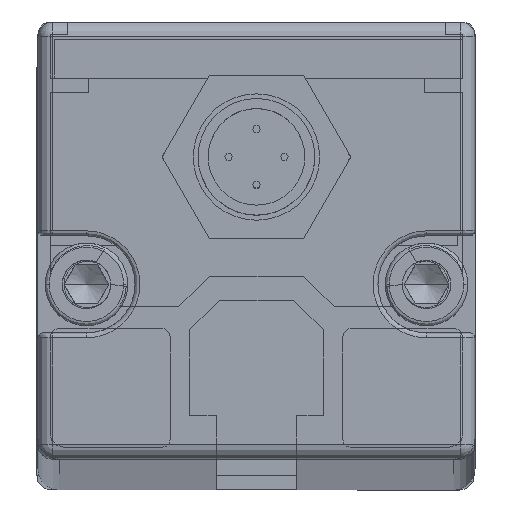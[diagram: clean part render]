
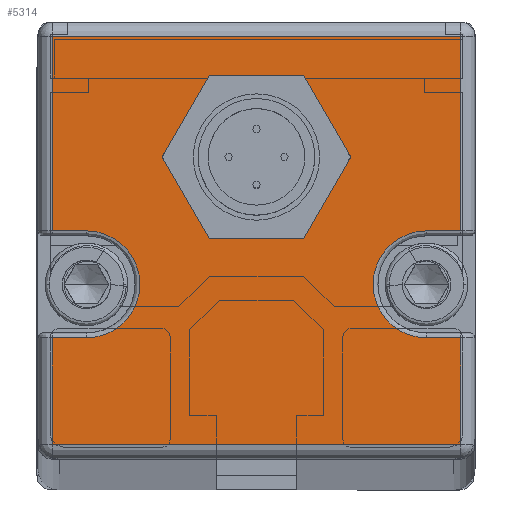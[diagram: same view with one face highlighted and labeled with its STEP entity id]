
A CAD part, top view. The second image highlights one B-rep face of the part: STEP entity #5314.
In plain terms, the highlighted planar face has unit normal (0, 0, 1) as drawn and (0, 1, 0) by its records, which use the part's own axes.
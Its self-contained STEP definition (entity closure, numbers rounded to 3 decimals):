
#67 = AXIS2_PLACEMENT_3D ( 'NONE', #9543, #9555, #9553 ) ;
#69 = AXIS2_PLACEMENT_3D ( 'NONE', #9169, #9168, #9167 ) ;
#70 = AXIS2_PLACEMENT_3D ( 'NONE', #9152, #9542, #9545 ) ;
#128 = AXIS2_PLACEMENT_3D ( 'NONE', #2404, #2449, #2382 ) ;
#158 = CARTESIAN_POINT ( 'NONE',  ( 21., 7., 10. ) ) ;
#160 = AXIS2_PLACEMENT_3D ( 'NONE', #9493, #9499, #9492 ) ;
#189 = CARTESIAN_POINT ( 'NONE',  ( -21., 7., -21. ) ) ;
#208 = CARTESIAN_POINT ( 'NONE',  ( -21., 7., -1. ) ) ;
#265 = CARTESIAN_POINT ( 'NONE',  ( 21., 7., -1. ) ) ;
#293 = CARTESIAN_POINT ( 'NONE',  ( 0., 7., -15.1 ) ) ;
#296 = CARTESIAN_POINT ( 'NONE',  ( 17.5, 7., 10. ) ) ;
#298 = CARTESIAN_POINT ( 'NONE',  ( 17.5, 7., -1. ) ) ;
#299 = CARTESIAN_POINT ( 'NONE',  ( 0., 7., -2.1 ) ) ;
#326 = CARTESIAN_POINT ( 'NONE',  ( 21., 7., -21. ) ) ;
#348 = CARTESIAN_POINT ( 'NONE',  ( 21., 7., 21. ) ) ;
#745 = CIRCLE ( 'NONE', #128, 6.5 ) ;
#802 = FACE_BOUND ( 'NONE', #983, .T. ) ;
#818 = FACE_OUTER_BOUND ( 'NONE', #989, .T. ) ;
#983 = EDGE_LOOP ( 'NONE', ( #9202, #4870 ) ) ;
#989 = EDGE_LOOP ( 'NONE', ( #4848, #9200, #4869, #3405, #8210, #3414, #9194, #8211, #9206, #9190, #9196, #9199 ) ) ;
#2382 = DIRECTION ( 'NONE',  ( 0., 0., 1. ) ) ;
#2404 = CARTESIAN_POINT ( 'NONE',  ( 0., 7., -8.6 ) ) ;
#2449 = DIRECTION ( 'NONE',  ( 0., 1., 0. ) ) ;
#2531 = VECTOR ( 'NONE', #2950, 1000. ) ;
#2535 = VECTOR ( 'NONE', #9172, 1000. ) ;
#2541 = VECTOR ( 'NONE', #9546, 1000. ) ;
#2543 = LINE ( 'NONE', #9171, #2535 ) ;
#2544 = CIRCLE ( 'NONE', #69, 5.5 ) ;
#2547 = LINE ( 'NONE', #2951, #2531 ) ;
#2548 = LINE ( 'NONE', #9166, #2541 ) ;
#2549 = CIRCLE ( 'NONE', #70, 6.5 ) ;
#2550 = LINE ( 'NONE', #9547, #2551 ) ;
#2551 = VECTOR ( 'NONE', #9548, 1000. ) ;
#2552 = LINE ( 'NONE', #9549, #2553 ) ;
#2553 = VECTOR ( 'NONE', #9550, 1000. ) ;
#2554 = LINE ( 'NONE', #9552, #2555 ) ;
#2555 = VECTOR ( 'NONE', #9551, 1000. ) ;
#2558 = CIRCLE ( 'NONE', #67, 5.5 ) ;
#2559 = LINE ( 'NONE', #2952, #2560 ) ;
#2560 = VECTOR ( 'NONE', #2953, 1000. ) ;
#2950 = DIRECTION ( 'NONE',  ( -1., 0., 0. ) ) ;
#2951 = CARTESIAN_POINT ( 'NONE',  ( 22.5, 7., -21. ) ) ;
#2952 = CARTESIAN_POINT ( 'NONE',  ( -21., 7., 22.5 ) ) ;
#2953 = DIRECTION ( 'NONE',  ( 0., 0., 1. ) ) ;
#3405 = ORIENTED_EDGE ( 'NONE', *, *, #7950, .T. ) ;
#3414 = ORIENTED_EDGE ( 'NONE', *, *, #3903, .T. ) ;
#3894 = EDGE_CURVE ( 'NONE', #4901, #4902, #2544, .T. ) ;
#3895 = EDGE_CURVE ( 'NONE', #5085, #4904, #2543, .T. ) ;
#3897 = EDGE_CURVE ( 'NONE', #4963, #4959, #2549, .T. ) ;
#3898 = EDGE_CURVE ( 'NONE', #5045, #5048, #2548, .T. ) ;
#3899 = EDGE_CURVE ( 'NONE', #5048, #5085, #2550, .T. ) ;
#3900 = EDGE_CURVE ( 'NONE', #4892, #4885, #2552, .T. ) ;
#3901 = EDGE_CURVE ( 'NONE', #4907, #4828, #2554, .T. ) ;
#3902 = EDGE_CURVE ( 'NONE', #4828, #5045, #2558, .T. ) ;
#3903 = EDGE_CURVE ( 'NONE', #4885, #4905, #2547, .T. ) ;
#3904 = EDGE_CURVE ( 'NONE', #4905, #4907, #2559, .T. ) ;
#4717 = LINE ( 'NONE', #6701, #4742 ) ;
#4742 = VECTOR ( 'NONE', #6702, 1000. ) ;
#4828 = VERTEX_POINT ( 'NONE', #7224 ) ;
#4848 = ORIENTED_EDGE ( 'NONE', *, *, #7908, .T. ) ;
#4869 = ORIENTED_EDGE ( 'NONE', *, *, #3894, .T. ) ;
#4870 = ORIENTED_EDGE ( 'NONE', *, *, #5251, .F. ) ;
#4885 = VERTEX_POINT ( 'NONE', #326 ) ;
#4892 = VERTEX_POINT ( 'NONE', #265 ) ;
#4901 = VERTEX_POINT ( 'NONE', #296 ) ;
#4902 = VERTEX_POINT ( 'NONE', #298 ) ;
#4904 = VERTEX_POINT ( 'NONE', #348 ) ;
#4905 = VERTEX_POINT ( 'NONE', #189 ) ;
#4906 = VERTEX_POINT ( 'NONE', #158 ) ;
#4907 = VERTEX_POINT ( 'NONE', #208 ) ;
#4959 = VERTEX_POINT ( 'NONE', #293 ) ;
#4963 = VERTEX_POINT ( 'NONE', #299 ) ;
#5045 = VERTEX_POINT ( 'NONE', #8743 ) ;
#5048 = VERTEX_POINT ( 'NONE', #8739 ) ;
#5085 = VERTEX_POINT ( 'NONE', #8704 ) ;
#5251 = EDGE_CURVE ( 'NONE', #4959, #4963, #745, .T. ) ;
#5314 = ADVANCED_FACE ( 'NONE', ( #802, #818 ), #9500, .T. ) ;
#6701 = CARTESIAN_POINT ( 'NONE',  ( 21., 7., 9.5 ) ) ;
#6702 = DIRECTION ( 'NONE',  ( 0., 0., -1. ) ) ;
#6796 = CARTESIAN_POINT ( 'NONE',  ( 22.5, 7., -1. ) ) ;
#6797 = DIRECTION ( 'NONE',  ( 1., 0., 0. ) ) ;
#6798 = CARTESIAN_POINT ( 'NONE',  ( 22.5, 7., 10. ) ) ;
#6799 = DIRECTION ( 'NONE',  ( -1., 0., 0. ) ) ;
#6886 = LINE ( 'NONE', #6796, #6896 ) ;
#6896 = VECTOR ( 'NONE', #6797, 1000. ) ;
#6900 = LINE ( 'NONE', #6798, #6901 ) ;
#6901 = VECTOR ( 'NONE', #6799, 1000. ) ;
#7224 = CARTESIAN_POINT ( 'NONE',  ( -17.5, 7., -1. ) ) ;
#7908 = EDGE_CURVE ( 'NONE', #4904, #4906, #4717, .T. ) ;
#7950 = EDGE_CURVE ( 'NONE', #4902, #4892, #6886, .T. ) ;
#7951 = EDGE_CURVE ( 'NONE', #4906, #4901, #6900, .T. ) ;
#8210 = ORIENTED_EDGE ( 'NONE', *, *, #3900, .T. ) ;
#8211 = ORIENTED_EDGE ( 'NONE', *, *, #3901, .T. ) ;
#8704 = CARTESIAN_POINT ( 'NONE',  ( -21., 7., 21. ) ) ;
#8739 = CARTESIAN_POINT ( 'NONE',  ( -21., 7., 10. ) ) ;
#8743 = CARTESIAN_POINT ( 'NONE',  ( -17.5, 7., 10. ) ) ;
#9152 = CARTESIAN_POINT ( 'NONE',  ( 0., 7., -8.6 ) ) ;
#9166 = CARTESIAN_POINT ( 'NONE',  ( 22.5, 7., 10. ) ) ;
#9167 = DIRECTION ( 'NONE',  ( 0., 0., 1. ) ) ;
#9168 = DIRECTION ( 'NONE',  ( 0., -1., 0. ) ) ;
#9169 = CARTESIAN_POINT ( 'NONE',  ( 17.5, 7., 4.5 ) ) ;
#9171 = CARTESIAN_POINT ( 'NONE',  ( 22.5, 7., 21. ) ) ;
#9172 = DIRECTION ( 'NONE',  ( 1., 0., 0. ) ) ;
#9190 = ORIENTED_EDGE ( 'NONE', *, *, #3898, .T. ) ;
#9194 = ORIENTED_EDGE ( 'NONE', *, *, #3904, .T. ) ;
#9196 = ORIENTED_EDGE ( 'NONE', *, *, #3899, .T. ) ;
#9199 = ORIENTED_EDGE ( 'NONE', *, *, #3895, .T. ) ;
#9200 = ORIENTED_EDGE ( 'NONE', *, *, #7951, .T. ) ;
#9202 = ORIENTED_EDGE ( 'NONE', *, *, #3897, .F. ) ;
#9206 = ORIENTED_EDGE ( 'NONE', *, *, #3902, .T. ) ;
#9492 = DIRECTION ( 'NONE',  ( 0., 0., 1. ) ) ;
#9493 = CARTESIAN_POINT ( 'NONE',  ( 22.5, 7., 22.5 ) ) ;
#9499 = DIRECTION ( 'NONE',  ( 0., 1., 0. ) ) ;
#9500 = PLANE ( 'NONE',  #160 ) ;
#9542 = DIRECTION ( 'NONE',  ( 0., 1., 0. ) ) ;
#9543 = CARTESIAN_POINT ( 'NONE',  ( -17.5, 7., 4.5 ) ) ;
#9545 = DIRECTION ( 'NONE',  ( 0., 0., 1. ) ) ;
#9546 = DIRECTION ( 'NONE',  ( -1., 0., 0. ) ) ;
#9547 = CARTESIAN_POINT ( 'NONE',  ( -21., 7., 22.5 ) ) ;
#9548 = DIRECTION ( 'NONE',  ( 0., 0., 1. ) ) ;
#9549 = CARTESIAN_POINT ( 'NONE',  ( 21., 7., -22.5 ) ) ;
#9550 = DIRECTION ( 'NONE',  ( 0., 0., -1. ) ) ;
#9551 = DIRECTION ( 'NONE',  ( 1., 0., 0. ) ) ;
#9552 = CARTESIAN_POINT ( 'NONE',  ( 22.5, 7., -1. ) ) ;
#9553 = DIRECTION ( 'NONE',  ( 0., 0., 1. ) ) ;
#9555 = DIRECTION ( 'NONE',  ( 0., -1., 0. ) ) ;
